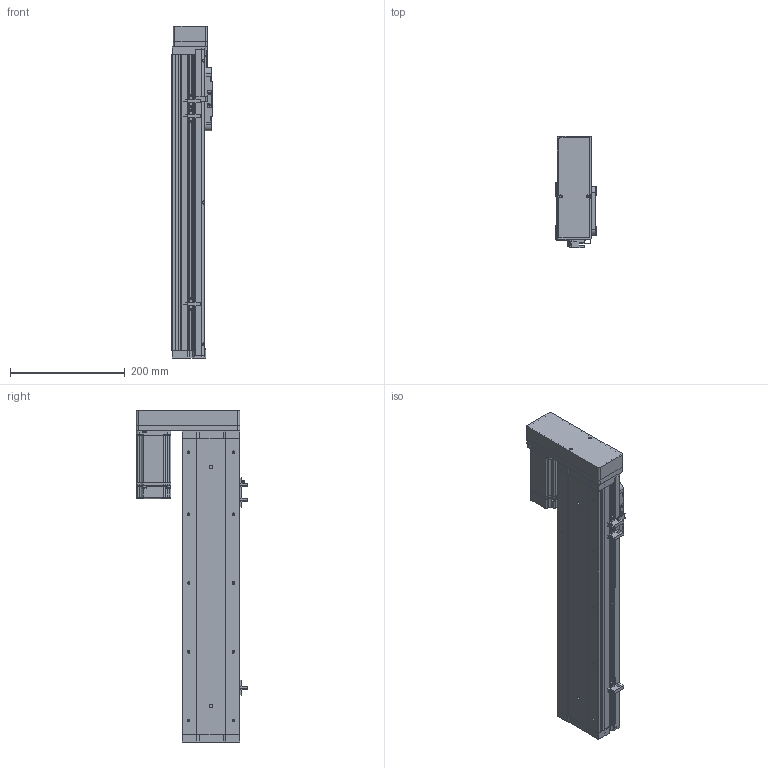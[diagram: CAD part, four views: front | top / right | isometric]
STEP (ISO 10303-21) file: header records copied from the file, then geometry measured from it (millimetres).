
FILE_DESCRIPTION (( 'STEP AP214' ), '1' );
FILE_NAME ('KSD100S-S350-ML-CR.STEP', '2019-09-02T08:06:32', ( '微软用户' ), ( '微软中国' ), 'SwSTEP 2.0', 'SolidWorks 2014', '' );
FILE_SCHEMA (( 'AUTOMOTIVE_DESIGN' ));
Length unit declared in the file: millimetre
Products named in the file (14): 100宽马达安装板连板左右折丝杆; U倰嫖萇EEㄜSX672; 感应片100宽全封闭; 100宽马达安装板全封闭; 100宽端板全封闭; 100宽滚珠螺姆安装板1防护罩; 100宽滚珠螺姆安装板1; 100遵裔啣揤啣; 100遵裔啣350俴最; 100遵耜啣350俴最佪裝; 100宽底板全封闭350行程丝杆; KSD100S-S350-ML-CR; MHMD042G1CA_2_03; 悵誘欶酘衵殏
Assembly tree (17 placements, depth 2):
  KSD100S-S350-ML-CR
    100宽底板全封闭350行程丝杆
    100遵耜啣350俴最佪裝  x2
    100遵裔啣350俴最
    100遵裔啣揤啣  x2
    100宽滚珠螺姆安装板1
    100宽滚珠螺姆安装板1防护罩
    100宽端板全封闭
    100宽马达安装板全封闭
    感应片100宽全封闭
    U倰嫖萇EEㄜSX672  x3
    100宽马达安装板连板左右折丝杆
    悵誘欶酘衵殏
    MHMD042G1CA_2_03
Bounding box: 70 x 193.7 x 578.5 mm (x, y, z)
Volume: 1272442.1 mm3; surface area: 595187.2 mm2
Topology: 16 solids, 17 shells, 1569 faces, 4368 edges, 2806 vertices
Faces by surface type: plane 695, cylinder 663, cone 193, bspline 18
Entity records: 52182 total; most frequent: CARTESIAN_POINT 8112, DIRECTION 7463, ORIENTED_EDGE 6924, EDGE_CURVE 3534, AXIS2_PLACEMENT_3D 2649, VERTEX_POINT 2344, LINE 2165, VECTOR 2165
